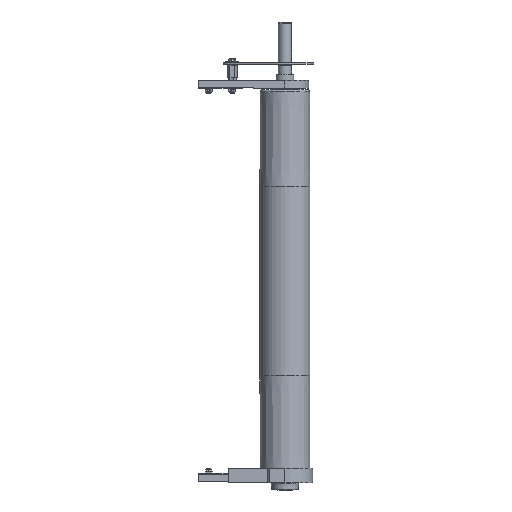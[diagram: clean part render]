
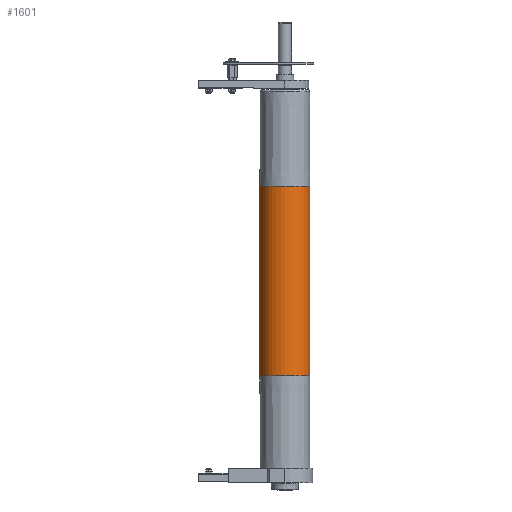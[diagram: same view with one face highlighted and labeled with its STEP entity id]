
A CAD part, front view. The second image highlights one B-rep face of the part: STEP entity #1601.
In plain terms, the highlighted cylindrical face has radius 47.5 mm (diameter 95 mm), a partial arc.
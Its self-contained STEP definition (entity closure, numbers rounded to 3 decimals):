
#3 = AXIS2_PLACEMENT_3D ( 'NONE', #9644, #2621, #21365 ) ;
#1247 = DIRECTION ( 'NONE',  ( 0., 0., -1. ) ) ;
#1601 = ADVANCED_FACE ( 'NONE', ( #19243 ), #24776, .T. ) ;
#1606 = DIRECTION ( 'NONE',  ( 0., 0., -1. ) ) ;
#2621 = DIRECTION ( 'NONE',  ( -1., 0., 0. ) ) ;
#2727 = CARTESIAN_POINT ( 'NONE',  ( 180., 0., -47.5 ) ) ;
#2947 = VERTEX_POINT ( 'NONE', #4696 ) ;
#3961 = CARTESIAN_POINT ( 'NONE',  ( 180., 0., 47.5 ) ) ;
#3979 = LINE ( 'NONE', #17994, #27417 ) ;
#4696 = CARTESIAN_POINT ( 'NONE',  ( -180., 0., -47.5 ) ) ;
#5002 = EDGE_CURVE ( 'NONE', #9610, #20970, #19806, .T. ) ;
#5057 = AXIS2_PLACEMENT_3D ( 'NONE', #29305, #15232, #1247 ) ;
#5915 = AXIS2_PLACEMENT_3D ( 'NONE', #29677, #15603, #1606 ) ;
#7143 = ORIENTED_EDGE ( 'NONE', *, *, #23140, .F. ) ;
#7992 = EDGE_LOOP ( 'NONE', ( #9603, #7143, #27997, #17734 ) ) ;
#9271 = CARTESIAN_POINT ( 'NONE',  ( -180., 0., 47.5 ) ) ;
#9549 = CIRCLE ( 'NONE', #5057, 47.5 ) ;
#9603 = ORIENTED_EDGE ( 'NONE', *, *, #12347, .F. ) ;
#9610 = VERTEX_POINT ( 'NONE', #3961 ) ;
#9644 = CARTESIAN_POINT ( 'NONE',  ( 360., 0., 0. ) ) ;
#12347 = EDGE_CURVE ( 'NONE', #29342, #2947, #3979, .T. ) ;
#15232 = DIRECTION ( 'NONE',  ( 1., 0., 0. ) ) ;
#15603 = DIRECTION ( 'NONE',  ( 1., 0., 0. ) ) ;
#17734 = ORIENTED_EDGE ( 'NONE', *, *, #18044, .T. ) ;
#17994 = CARTESIAN_POINT ( 'NONE',  ( 360., 0., -47.5 ) ) ;
#18044 = EDGE_CURVE ( 'NONE', #20970, #2947, #9549, .T. ) ;
#18376 = CARTESIAN_POINT ( 'NONE',  ( 360., 0., 47.5 ) ) ;
#18543 = CIRCLE ( 'NONE', #5915, 47.5 ) ;
#19243 = FACE_OUTER_BOUND ( 'NONE', #7992, .T. ) ;
#19806 = LINE ( 'NONE', #18376, #26044 ) ;
#20970 = VERTEX_POINT ( 'NONE', #9271 ) ;
#21365 = DIRECTION ( 'NONE',  ( 0., 0., 1. ) ) ;
#23140 = EDGE_CURVE ( 'NONE', #9610, #29342, #18543, .T. ) ;
#24776 = CYLINDRICAL_SURFACE ( 'NONE', #3, 47.5 ) ;
#26044 = VECTOR ( 'NONE', #30070, 1000. ) ;
#27326 = DIRECTION ( 'NONE',  ( -1., 0., 0. ) ) ;
#27417 = VECTOR ( 'NONE', #27326, 1000. ) ;
#27997 = ORIENTED_EDGE ( 'NONE', *, *, #5002, .T. ) ;
#29305 = CARTESIAN_POINT ( 'NONE',  ( -180., 0., 0. ) ) ;
#29342 = VERTEX_POINT ( 'NONE', #2727 ) ;
#29677 = CARTESIAN_POINT ( 'NONE',  ( 180., 0., 0. ) ) ;
#30070 = DIRECTION ( 'NONE',  ( -1., 0., 0. ) ) ;
